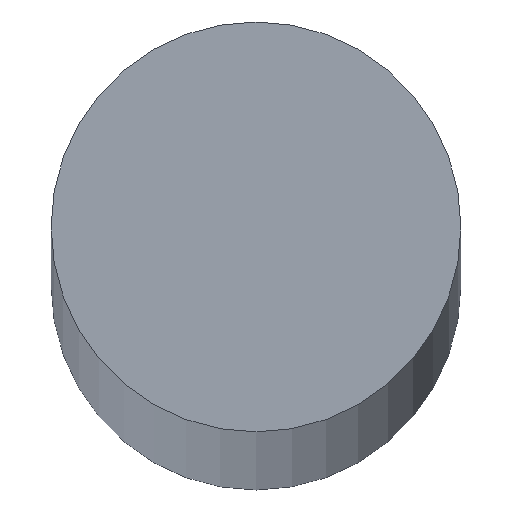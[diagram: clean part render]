
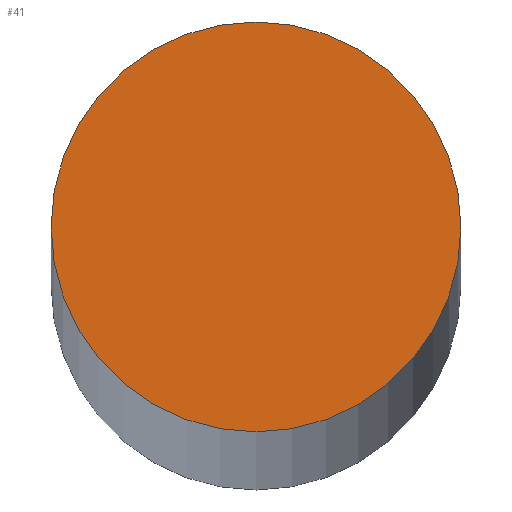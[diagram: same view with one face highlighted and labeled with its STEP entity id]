
A CAD part, top view. The second image highlights one B-rep face of the part: STEP entity #41.
In plain terms, the highlighted planar face has unit normal (0, 0, 1).
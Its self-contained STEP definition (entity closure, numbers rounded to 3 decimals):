
#16=PLANE('',#66);
#19=FACE_OUTER_BOUND('',#22,.T.);
#22=EDGE_LOOP('',(#37));
#25=CIRCLE('',#63,8.);
#27=VERTEX_POINT('',#82);
#29=EDGE_CURVE('',#27,#27,#25,.T.);
#37=ORIENTED_EDGE('',*,*,#29,.T.);
#41=ADVANCED_FACE('',(#19),#16,.T.);
#63=AXIS2_PLACEMENT_3D('',#83,#71,#72);
#66=AXIS2_PLACEMENT_3D('',#88,#78,#79);
#71=DIRECTION('center_axis',(0.,0.,1.));
#72=DIRECTION('ref_axis',(-1.,0.,0.));
#78=DIRECTION('center_axis',(0.,0.,1.));
#79=DIRECTION('ref_axis',(1.,0.,0.));
#82=CARTESIAN_POINT('',(8.,0.,1300.));
#83=CARTESIAN_POINT('Origin',(0.,0.,1300.));
#88=CARTESIAN_POINT('Origin',(0.,0.,
1300.));
